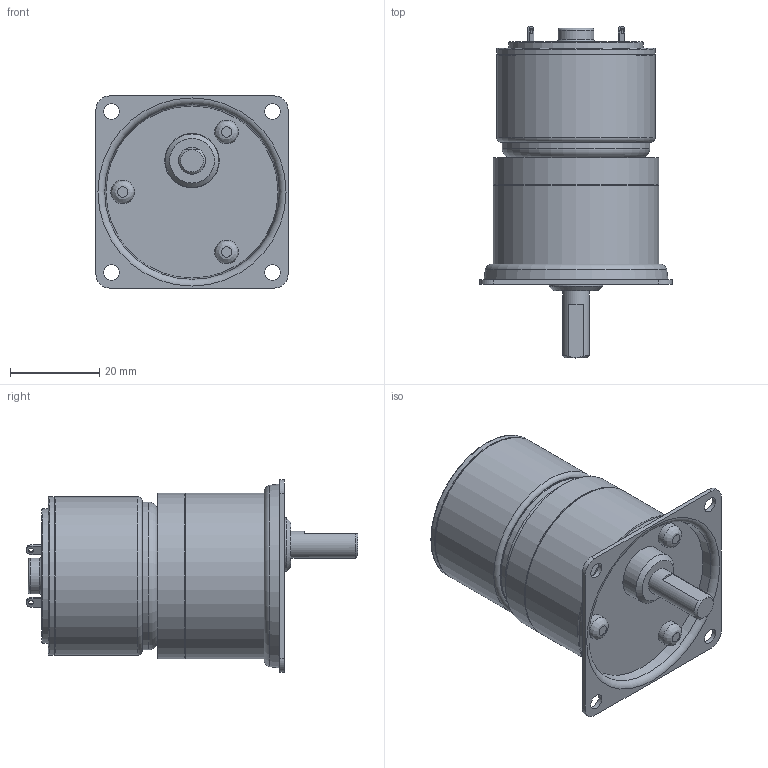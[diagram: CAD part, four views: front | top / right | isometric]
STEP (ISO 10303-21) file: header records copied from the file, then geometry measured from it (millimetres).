
FILE_DESCRIPTION((''),'2;1');
FILE_NAME('C:\Documents and Settings\SSEGAWA\デスクトップ\TP-3526E-PHM-2.STP','2013-07-09T16:07:45',('SSEGAWA'),(''),'Autodesk Inventor 2010','Autodesk Inventor 2010','');
FILE_SCHEMA(('CONFIG_CONTROL_DESIGN'));
Length unit declared in the file: millimetre
Products named in the file (5): tp_3526e_phm_2; phm_2; hm_2; □43; tp_3526e
Assembly tree (4 placements, depth 3):
  tp_3526e_phm_2
    phm_2
      hm_2
      □43
    tp_3526e
Bounding box: 43 x 74.3 x 43 mm (x, y, z)
Volume: 53542.5 mm3; surface area: 14951 mm2
Topology: 3 solids, 3 shells, 106 faces, 230 edges, 151 vertices
Faces by surface type: plane 39, cylinder 30, bspline 25, torus 7, cone 5
Full cylindrical faces by diameter (mm): 1.1 x1, 2 x1, 2.4 x1, 5 x1, 5.3 x3, 6 x1, 8 x1, 10 x1, 12 x1, 12.2 x1, 30 x1, 33 x1, 35 x1, 35.4 x2, 36.6 x1, 37 x2
Entity records: 3078 total; most frequent: CARTESIAN_POINT 983, DIRECTION 433, ORIENTED_EDGE 300, EDGE_LOOP 197, AXIS2_PLACEMENT_3D 195, EDGE_CURVE 150, VERTEX_POINT 127, FACE_OUTER_BOUND 106
